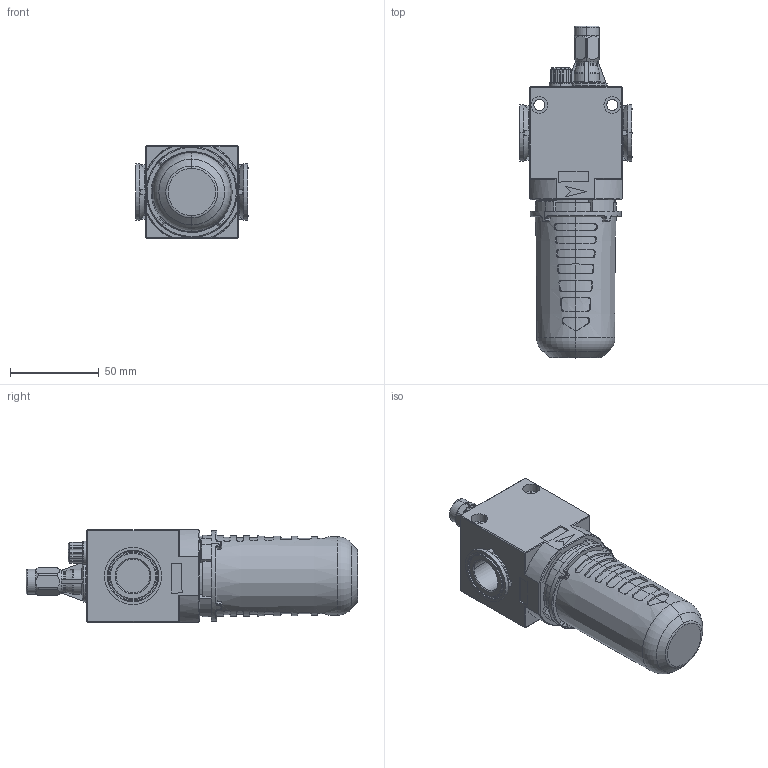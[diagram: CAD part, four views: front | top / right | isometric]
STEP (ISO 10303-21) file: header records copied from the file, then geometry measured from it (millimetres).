
FILE_DESCRIPTION(('STEP AP214'),'1');
FILE_NAME('052 L 12 PE.stp','2022-09-07T13:07:35',(' '),(' '),'Spatial InterOp 3D',' ',' ');
FILE_SCHEMA(('AUTOMOTIVE_DESIGN { 1 0 10303 214 1 1 1 1 }'));
Length unit declared in the file: metre
Products named in the file (1): Volume
Bounding box: 63.3 x 186.5 x 52.1 mm (x, y, z)
Volume: 306475.4 mm3; surface area: 39823.7 mm2
Topology: 1 solids, 1 shells, 595 faces, 1536 edges, 968 vertices
Faces by surface type: plane 167, cylinder 138, cone 126, bspline 106, torus 54, extrusion 4
Entity records: 22505 total; most frequent: CARTESIAN_POINT 8561, ORIENTED_EDGE 3072, DIRECTION 2702, EDGE_CURVE 1536, AXIS2_PLACEMENT_3D 1025, VERTEX_POINT 968, VECTOR 652, LINE 648
